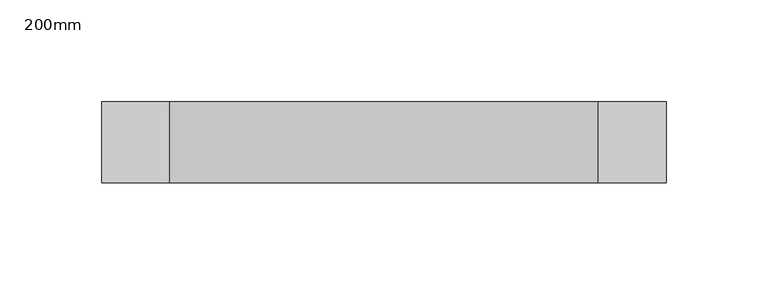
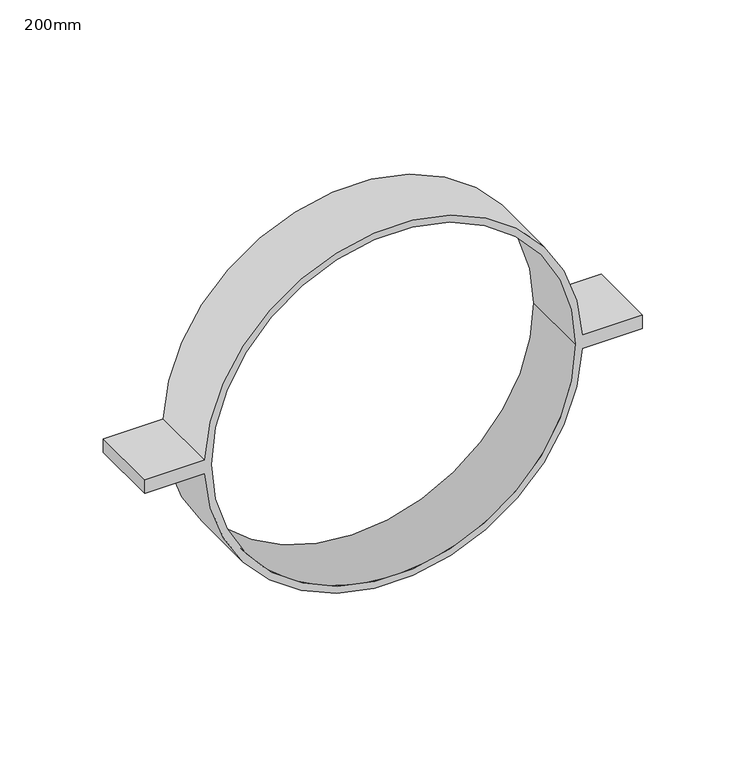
"""IFC4 building model written with IfcOpenShell, lengths in millimetres: pipe fitting geometry, PAVCO_PVC QS Soporte Horizontal de 3 Apoyos : 200mm."""

from ifc_helpers import new_model, si_unit, point, frame, origin, origin_2d, place, context, project, spatial, polyline, circle_curve, trimmed, segment, composite_curve, outline, extrude, source, transform, mapped, element, save


def pipe_fitting_200mm_8e3c13c0(model_context):
    return source(origin(), model_context, "Body", "SweptSolid", [
        extrude(outline(composite_curve([segment(polyline([(-4.0, 139.0), (4.0, 139.0), (4.0, 105.4241433)]), True, "CONTINUOUS"), segment(trimmed(circle_curve(origin_2d(), 105.5), [point((4.0, 105.4241433))], [point((4.0, -105.4241433))], False, "CARTESIAN"), True, "CONTINUOUS"), segment(polyline([(4.0, -105.4241433), (4.0, -139.0), (-4.0, -139.0), (-4.0, -105.4241433)]), True, "CONTINUOUS"), segment(trimmed(circle_curve(origin_2d(), 105.5), [point((-4.0, -105.4241433))], [point((-4.0, 105.4241433))], False, "CARTESIAN"), True, "CONTINUOUS"), segment(polyline([(-4.0, 105.4241433), (-4.0, 139.0)]), True, "CONTINUOUS")], self_intersect=False), holes=[composite_curve([segment(trimmed(circle_curve(origin_2d(), 101.5), [point((0.0, -101.5))], [point((0.0, 101.5))], True, "CARTESIAN"), True, "CONTINUOUS"), segment(trimmed(circle_curve(origin_2d(), 101.5), [point((0.0, 101.5))], [point((0.0, -101.5))], True, "CARTESIAN"), True, "CONTINUOUS")], self_intersect=False)]), frame((0.0, -20.0, 0.0), z_axis=(0.0, 1.0, 0.0), x_axis=(0.0, 0.0, 1.0)), (0.0, 0.0, 1.0), 40.0),
    ])


if __name__ == "__main__":
    model = new_model("IFC4")
    model_context = context("Model", 3, world=origin())
    ifc_project = project(units=[si_unit("LENGTHUNIT", "METRE", prefix="MILLI")], contexts=[model_context])
    site = spatial("IfcSite", under=ifc_project)
    building = spatial("IfcBuilding", under=site)
    placement = place(None, origin())
    pipe_fitting_200mm_shape = pipe_fitting_200mm_8e3c13c0(model_context)
    element("IfcPipeFitting", 1, ObjectType="PAVCO_PVC QS Soporte Horizontal de 3 Apoyos : 200mm", at=placement, inside=building, context=model_context, shape_type="MappedRepresentation", body=[
        mapped(pipe_fitting_200mm_shape, transform((0.0, 0.0, 0.0), x_axis=(1.0, 0.0, 0.0), y_axis=(0.0, 1.0, 0.0), z_axis=(0.0, 0.0, 1.0))),
    ])
    save(model, "model.ifc")
